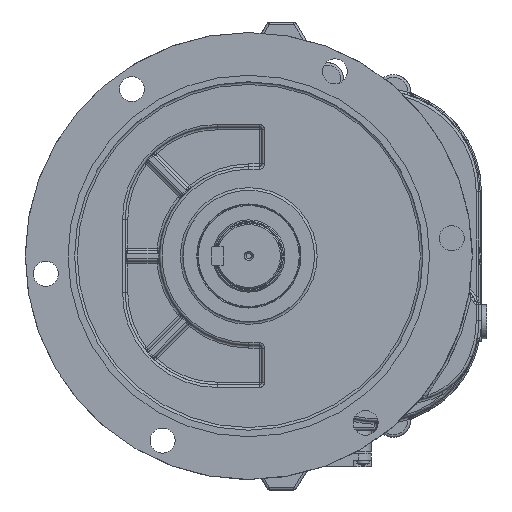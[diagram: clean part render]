
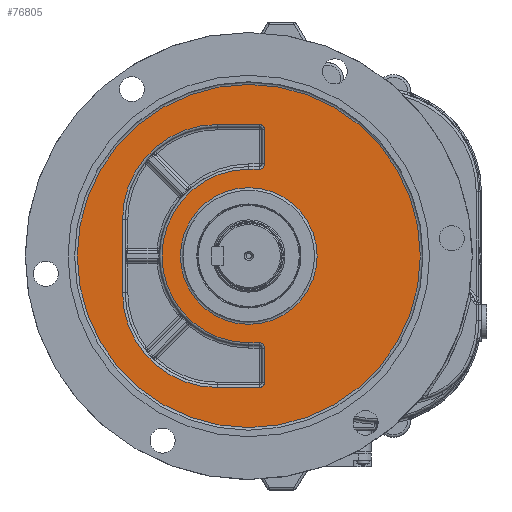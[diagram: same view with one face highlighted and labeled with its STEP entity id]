
A CAD part, left-side view. The second image highlights one B-rep face of the part: STEP entity #76805.
In plain terms, the highlighted planar face has unit normal (-1, 0, 0).
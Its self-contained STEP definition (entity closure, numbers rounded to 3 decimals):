
#3860=FACE_BOUND('',#15093,.T.);
#3861=FACE_BOUND('',#15094,.T.);
#5316=PLANE('',#84764);
#10383=FACE_OUTER_BOUND('',#15092,.T.);
#15092=EDGE_LOOP('',(#68828));
#15093=EDGE_LOOP('',(#68829,#68830,#68831,#68832,#68833,#68834,#68835,#68836,
#68837,#68838,#68839,#68840,#68841,#68842));
#15094=EDGE_LOOP('',(#68843));
#19828=CIRCLE('',#84567,130.5);
#19868=CIRCLE('',#84634,4.);
#19871=CIRCLE('',#84639,66.);
#19877=CIRCLE('',#84648,72.);
#19881=CIRCLE('',#84654,72.);
#19885=CIRCLE('',#84660,4.);
#19888=CIRCLE('',#84665,4.);
#19889=CIRCLE('',#84667,4.);
#19941=CIRCLE('',#84765,52.);
#24690=LINE('',#182912,#29264);
#24691=LINE('',#182920,#29265);
#24692=LINE('',#182929,#29266);
#24693=LINE('',#182935,#29267);
#24694=LINE('',#182945,#29268);
#24696=LINE('',#182956,#29270);
#24697=LINE('',#182964,#29271);
#29264=VECTOR('',#104535,10.);
#29265=VECTOR('',#104546,10.);
#29266=VECTOR('',#104559,10.);
#29267=VECTOR('',#104566,10.);
#29268=VECTOR('',#104579,10.);
#29270=VECTOR('',#104593,10.);
#29271=VECTOR('',#104604,10.);
#35961=VERTEX_POINT('',#182791);
#35990=VERTEX_POINT('',#182909);
#35991=VERTEX_POINT('',#182911);
#35992=VERTEX_POINT('',#182915);
#35993=VERTEX_POINT('',#182919);
#35994=VERTEX_POINT('',#182923);
#35995=VERTEX_POINT('',#182928);
#35996=VERTEX_POINT('',#182932);
#35997=VERTEX_POINT('',#182934);
#35998=VERTEX_POINT('',#182938);
#36000=VERTEX_POINT('',#182944);
#36002=VERTEX_POINT('',#182950);
#36003=VERTEX_POINT('',#182955);
#36004=VERTEX_POINT('',#182961);
#36005=VERTEX_POINT('',#182963);
#36040=VERTEX_POINT('',#183981);
#46867=EDGE_CURVE('',#35961,#35961,#19828,.T.);
#46931=EDGE_CURVE('',#35990,#35991,#24690,.T.);
#46933=EDGE_CURVE('',#35991,#35992,#19868,.T.);
#46935=EDGE_CURVE('',#35992,#35993,#24691,.T.);
#46937=EDGE_CURVE('',#35993,#35994,#19871,.T.);
#46940=EDGE_CURVE('',#35994,#35995,#24692,.T.);
#46943=EDGE_CURVE('',#35996,#35997,#24693,.T.);
#46945=EDGE_CURVE('',#35997,#35998,#19877,.T.);
#46948=EDGE_CURVE('',#35998,#36000,#24694,.T.);
#46951=EDGE_CURVE('',#36000,#36002,#19881,.T.);
#46954=EDGE_CURVE('',#36002,#36003,#24696,.T.);
#46956=EDGE_CURVE('',#36003,#35990,#19885,.T.);
#46958=EDGE_CURVE('',#36004,#36005,#24697,.T.);
#46960=EDGE_CURVE('',#36005,#35996,#19888,.T.);
#46961=EDGE_CURVE('',#35995,#36004,#19889,.T.);
#47048=EDGE_CURVE('',#36040,#36040,#19941,.T.);
#68828=ORIENTED_EDGE('',*,*,#46867,.F.);
#68829=ORIENTED_EDGE('',*,*,#46956,.F.);
#68830=ORIENTED_EDGE('',*,*,#46954,.F.);
#68831=ORIENTED_EDGE('',*,*,#46951,.F.);
#68832=ORIENTED_EDGE('',*,*,#46948,.F.);
#68833=ORIENTED_EDGE('',*,*,#46945,.F.);
#68834=ORIENTED_EDGE('',*,*,#46943,.F.);
#68835=ORIENTED_EDGE('',*,*,#46960,.F.);
#68836=ORIENTED_EDGE('',*,*,#46958,.F.);
#68837=ORIENTED_EDGE('',*,*,#46961,.F.);
#68838=ORIENTED_EDGE('',*,*,#46940,.F.);
#68839=ORIENTED_EDGE('',*,*,#46937,.F.);
#68840=ORIENTED_EDGE('',*,*,#46935,.F.);
#68841=ORIENTED_EDGE('',*,*,#46933,.F.);
#68842=ORIENTED_EDGE('',*,*,#46931,.F.);
#68843=ORIENTED_EDGE('',*,*,#47048,.F.);
#76805=ADVANCED_FACE('',(#10383,#3860,#3861),#5316,.F.);
#84567=AXIS2_PLACEMENT_3D('',#182792,#104380,#104381);
#84634=AXIS2_PLACEMENT_3D('',#182916,#104540,#104541);
#84639=AXIS2_PLACEMENT_3D('',#182924,#104551,#104552);
#84648=AXIS2_PLACEMENT_3D('',#182939,#104571,#104572);
#84654=AXIS2_PLACEMENT_3D('',#182951,#104585,#104586);
#84660=AXIS2_PLACEMENT_3D('',#182959,#104598,#104599);
#84665=AXIS2_PLACEMENT_3D('',#182967,#104609,#104610);
#84667=AXIS2_PLACEMENT_3D('',#182969,#104613,#104614);
#84764=AXIS2_PLACEMENT_3D('',#183980,#104829,#104830);
#84765=AXIS2_PLACEMENT_3D('',#183982,#104831,#104832);
#104380=DIRECTION('center_axis',(1.,0.,0.));
#104381=DIRECTION('ref_axis',(0.,0.673,0.74));
#104535=DIRECTION('',(0.,0.,1.));
#104540=DIRECTION('center_axis',(-1.,0.,0.));
#104541=DIRECTION('ref_axis',(0.,-0.707,
0.707));
#104546=DIRECTION('',(0.,1.,0.));
#104551=DIRECTION('center_axis',(1.,0.,0.));
#104552=DIRECTION('ref_axis',(0.,1.,0.));
#104559=DIRECTION('',(0.,-1.,0.));
#104566=DIRECTION('',(0.,1.,0.));
#104571=DIRECTION('center_axis',(-1.,0.,0.));
#104572=DIRECTION('ref_axis',(0.,0.707,0.707));
#104579=DIRECTION('',(0.,0.,-1.));
#104585=DIRECTION('center_axis',(-1.,0.,0.));
#104586=DIRECTION('ref_axis',(0.,0.707,-0.707));
#104593=DIRECTION('',(0.,-1.,0.));
#104598=DIRECTION('center_axis',(-1.,0.,0.));
#104599=DIRECTION('ref_axis',(0.,-0.707,-0.707));
#104604=DIRECTION('',(0.,0.,1.));
#104609=DIRECTION('center_axis',(-1.,0.,0.));
#104610=DIRECTION('ref_axis',(0.,-0.707,
0.707));
#104613=DIRECTION('center_axis',(-1.,0.,0.));
#104614=DIRECTION('ref_axis',(0.,-0.707,-0.707));
#104829=DIRECTION('center_axis',(1.,0.,0.));
#104830=DIRECTION('ref_axis',(0.,0.,
-1.));
#104831=DIRECTION('center_axis',(-1.,0.,0.));
#104832=DIRECTION('ref_axis',(0.,0.,
-1.));
#182791=CARTESIAN_POINT('',(-156.2,0.,130.5));
#182792=CARTESIAN_POINT('Origin',(-156.2,0.,0.));
#182909=CARTESIAN_POINT('',(-156.2,-12.,-96.));
#182911=CARTESIAN_POINT('',(-156.2,-12.,-70.));
#182912=CARTESIAN_POINT('',(-156.2,-12.,-34.));
#182915=CARTESIAN_POINT('',(-156.2,-8.,-66.));
#182916=CARTESIAN_POINT('Origin',(-156.2,-8.,-70.));
#182919=CARTESIAN_POINT('',(-156.2,0.,-66.));
#182920=CARTESIAN_POINT('',(-156.2,22.002,-66.));
#182923=CARTESIAN_POINT('',(-156.2,0.,66.));
#182924=CARTESIAN_POINT('Origin',(-156.2,0.,0.));
#182928=CARTESIAN_POINT('',(-156.2,-8.,66.));
#182929=CARTESIAN_POINT('',(-156.2,17.002,66.));
#182932=CARTESIAN_POINT('',(-156.2,-8.,100.));
#182934=CARTESIAN_POINT('',(-156.2,24.,100.));
#182935=CARTESIAN_POINT('',(-156.2,34.002,100.));
#182938=CARTESIAN_POINT('',(-156.2,96.,28.));
#182939=CARTESIAN_POINT('Origin',(-156.2,24.,28.));
#182944=CARTESIAN_POINT('',(-156.2,96.,-28.));
#182945=CARTESIAN_POINT('',(-156.2,96.,-14.));
#182950=CARTESIAN_POINT('',(-156.2,24.,-100.));
#182951=CARTESIAN_POINT('Origin',(-156.2,24.,-28.));
#182955=CARTESIAN_POINT('',(-156.2,-8.,-100.));
#182956=CARTESIAN_POINT('',(-156.2,17.002,-100.));
#182959=CARTESIAN_POINT('Origin',(-156.2,-8.,-96.));
#182961=CARTESIAN_POINT('',(-156.2,-12.,70.));
#182963=CARTESIAN_POINT('',(-156.2,-12.,96.));
#182964=CARTESIAN_POINT('',(-156.2,-12.,49.));
#182967=CARTESIAN_POINT('Origin',(-156.2,-8.,96.));
#182969=CARTESIAN_POINT('Origin',(-156.2,-8.,70.));
#183980=CARTESIAN_POINT('Origin',(-156.2,44.003,0.));
#183981=CARTESIAN_POINT('',(-156.2,0.,52.));
#183982=CARTESIAN_POINT('Origin',(-156.2,0.,0.));
